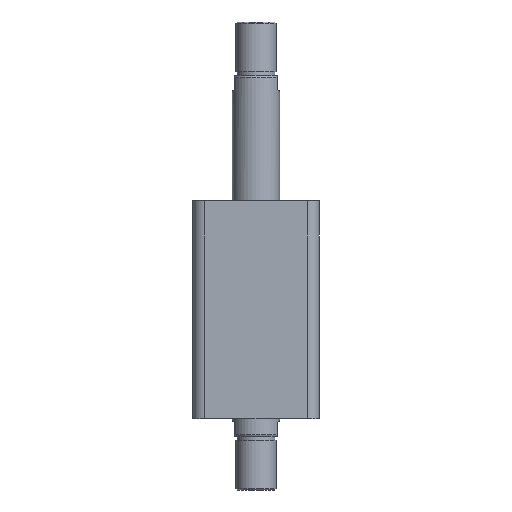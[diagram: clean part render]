
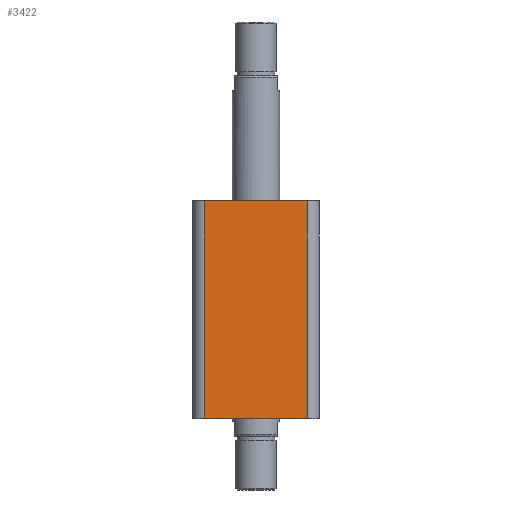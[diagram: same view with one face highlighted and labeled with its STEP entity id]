
A CAD part, front view. The second image highlights one B-rep face of the part: STEP entity #3422.
In plain terms, the highlighted planar face has unit normal (0, -1, 0).
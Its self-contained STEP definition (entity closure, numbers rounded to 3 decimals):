
#19 = DIRECTION ( 'NONE',  ( 1., 0., 0. ) ) ;
#25 = CARTESIAN_POINT ( 'NONE',  ( -47., -47., 162. ) ) ;
#26 = DIRECTION ( 'NONE',  ( 0., 0., -1. ) ) ;
#27 = CARTESIAN_POINT ( 'NONE',  ( -38., -47., 162. ) ) ;
#361 = EDGE_LOOP ( 'NONE', ( #2130, #2131, #2132, #2133 ) ) ;
#557 = FACE_OUTER_BOUND ( 'NONE', #361, .T. ) ;
#1408 = VERTEX_POINT ( 'NONE', #3301 ) ;
#1497 = VERTEX_POINT ( 'NONE', #3212 ) ;
#1498 = VERTEX_POINT ( 'NONE', #3211 ) ;
#1499 = VERTEX_POINT ( 'NONE', #3210 ) ;
#1821 = CARTESIAN_POINT ( 'NONE',  ( -47., -47., 162. ) ) ;
#1823 = PLANE ( 'NONE',  #3073 ) ;
#1825 = DIRECTION ( 'NONE',  ( 0., 1., 0. ) ) ;
#1826 = DIRECTION ( 'NONE',  ( 0., 0., 1. ) ) ;
#2130 = ORIENTED_EDGE ( 'NONE', *, *, #2635, .F. ) ;
#2131 = ORIENTED_EDGE ( 'NONE', *, *, #2630, .T. ) ;
#2132 = ORIENTED_EDGE ( 'NONE', *, *, #2629, .T. ) ;
#2133 = ORIENTED_EDGE ( 'NONE', *, *, #2628, .T. ) ;
#2331 = VECTOR ( 'NONE', #26, 1000. ) ;
#2335 = LINE ( 'NONE', #3193, #2339 ) ;
#2337 = VECTOR ( 'NONE', #3191, 1000. ) ;
#2338 = LINE ( 'NONE', #27, #2331 ) ;
#2339 = VECTOR ( 'NONE', #3203, 1000. ) ;
#2340 = LINE ( 'NONE', #3194, #2337 ) ;
#2343 = LINE ( 'NONE', #25, #2346 ) ;
#2346 = VECTOR ( 'NONE', #19, 1000. ) ;
#2628 = EDGE_CURVE ( 'NONE', #1499, #1497, #2335, .T. ) ;
#2629 = EDGE_CURVE ( 'NONE', #1498, #1499, #2340, .T. ) ;
#2630 = EDGE_CURVE ( 'NONE', #1408, #1498, #2338, .T. ) ;
#2635 = EDGE_CURVE ( 'NONE', #1408, #1497, #2343, .T. ) ;
#3073 = AXIS2_PLACEMENT_3D ( 'NONE', #1821, #1825, #1826 ) ;
#3191 = DIRECTION ( 'NONE',  ( 1., 0., 0. ) ) ;
#3193 = CARTESIAN_POINT ( 'NONE',  ( 38., -47., 162. ) ) ;
#3194 = CARTESIAN_POINT ( 'NONE',  ( -47., -47., 0. ) ) ;
#3203 = DIRECTION ( 'NONE',  ( 0., 0., 1. ) ) ;
#3210 = CARTESIAN_POINT ( 'NONE',  ( 38., -47., 0. ) ) ;
#3211 = CARTESIAN_POINT ( 'NONE',  ( -38., -47., 0. ) ) ;
#3212 = CARTESIAN_POINT ( 'NONE',  ( 38., -47., 162. ) ) ;
#3301 = CARTESIAN_POINT ( 'NONE',  ( -38., -47., 162. ) ) ;
#3422 = ADVANCED_FACE ( 'NONE', ( #557 ), #1823, .F. ) ;
